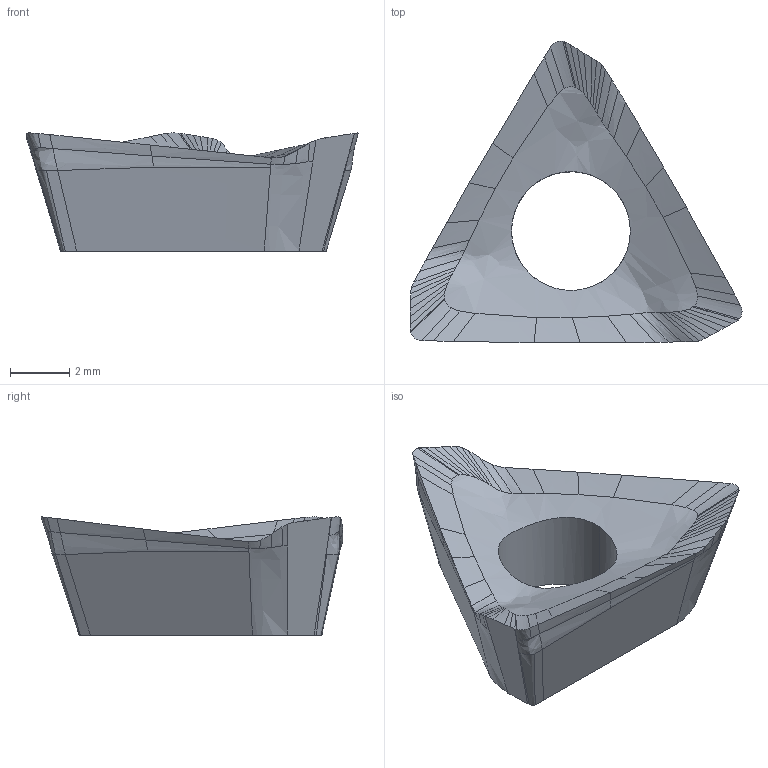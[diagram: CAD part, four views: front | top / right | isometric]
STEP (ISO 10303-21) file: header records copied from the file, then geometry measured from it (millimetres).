
FILE_DESCRIPTION(('CATIA V5 STEP','CAx-IF Rec.Pracs.--- Model Styling and Organization---1.2---2011-12-15'),'2;1');
FILE_NAME('N:\data\isr\design\special1\users\ALLA_K\STP DETAIL\INSERTS\MILLING\5668464 HM390 TPKR 100304PDRHM\HM390 TPKR 100304PDRHM_D.stp','2017-04-06T08:21:34+00:00',('none'),('none'),'CATIA Version 5 Release 21 SP 5 (IN-10)','CATIA V5 STEP AP214','none');
FILE_SCHEMA(('AUTOMOTIVE_DESIGN { 1 0 10303 214 1 1 1 1 }'));
Length unit declared in the file: millimetre
Products named in the file (1): HM390 TPKR 100304PDRHM
Bounding box: 11.19 x 10.17 x 3.98 mm (x, y, z)
Volume: 138 mm3; surface area: 241 mm2
Topology: 1 solids, 1 shells, 119 faces, 370 edges, 254 vertices
Faces by surface type: bspline 110, plane 7, cylinder 2
Entity records: 17288 total; most frequent: CARTESIAN_POINT 14964, ORIENTED_EDGE 626, B_SPLINE_CURVE_WITH_KNOTS 359, EDGE_CURVE 313, VERTEX_POINT 196, EDGE_LOOP 121, ADVANCED_FACE 119, OVER_RIDING_STYLED_ITEM 119
